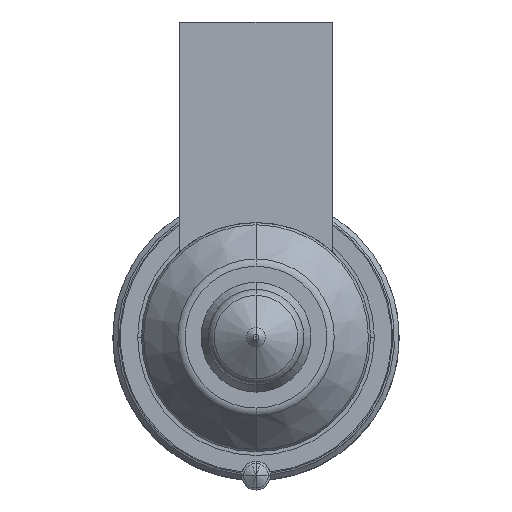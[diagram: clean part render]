
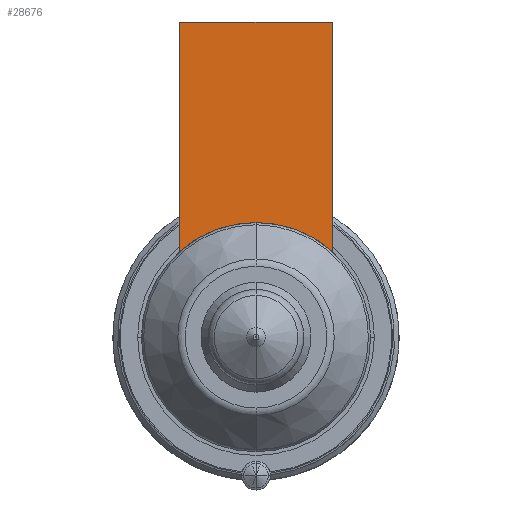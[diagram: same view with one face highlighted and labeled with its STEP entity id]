
A CAD part, front view. The second image highlights one B-rep face of the part: STEP entity #28676.
In plain terms, the highlighted planar face has unit normal (0, -1, 0).
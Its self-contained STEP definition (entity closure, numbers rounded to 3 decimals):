
#27836=DIRECTION('',(0.,0.,-1.));
#27837=VECTOR('',#27836,24.056);
#27838=CARTESIAN_POINT('',(-8.,-56.,33.));
#27839=LINE('',#27838,#27837);
#27876=DIRECTION('',(1.,0.,0.));
#27877=VECTOR('',#27876,16.);
#27878=CARTESIAN_POINT('',(-8.,-56.,33.));
#27879=LINE('',#27878,#27877);
#27883=CARTESIAN_POINT('',(0.,-56.,0.));
#27884=DIRECTION('',(0.,-1.,0.));
#27885=DIRECTION('',(0.667,0.,0.745));
#27886=AXIS2_PLACEMENT_3D('',#27883,#27884,#27885);
#27891=CARTESIAN_POINT('',(0.,-56.,0.));
#27892=DIRECTION('',(0.,-1.,0.));
#27893=DIRECTION('',(0.,0.,1.));
#27894=AXIS2_PLACEMENT_3D('',#27891,#27892,#27893);
#27927=DIRECTION('',(0.,0.,-1.));
#27928=VECTOR('',#27927,24.056);
#27929=CARTESIAN_POINT('',(8.,-56.,33.));
#27930=LINE('',#27929,#27928);
#28520=CARTESIAN_POINT('',(-8.,-56.,33.));
#28521=VERTEX_POINT('',#28520);
#28526=CARTESIAN_POINT('',(8.,-56.,33.));
#28527=VERTEX_POINT('',#28526);
#28530=CARTESIAN_POINT('',(-8.,-56.,8.944));
#28531=VERTEX_POINT('',#28530);
#28534=CARTESIAN_POINT('',(8.,-56.,8.944));
#28535=VERTEX_POINT('',#28534);
#28595=CARTESIAN_POINT('',(0.,-56.,12.));
#28596=VERTEX_POINT('',#28595);
#28661=CARTESIAN_POINT('',(-8.,-56.,33.));
#28662=DIRECTION('',(0.,-1.,0.));
#28663=DIRECTION('',(0.,0.,-1.));
#28664=AXIS2_PLACEMENT_3D('',#28661,#28662,#28663);
#28665=PLANE('',#28664);
#28666=ORIENTED_EDGE('',*,*,#28609,.F.);
#28668=ORIENTED_EDGE('',*,*,#28667,.T.);
#28670=ORIENTED_EDGE('',*,*,#28669,.T.);
#28672=ORIENTED_EDGE('',*,*,#28671,.T.);
#28673=ORIENTED_EDGE('',*,*,#28641,.T.);
#28674=EDGE_LOOP('',(#28666,#28668,#28670,#28672,#28673));
#28675=FACE_OUTER_BOUND('',#28674,.F.);
#28676=ADVANCED_FACE('',(#28675),#28665,.T.);
#27887=CIRCLE('',#27886,12.);
#27895=CIRCLE('',#27894,12.);
#28609=EDGE_CURVE('',#28521,#28531,#27839,.T.);
#28641=EDGE_CURVE('',#28596,#28531,#27895,.T.);
#28667=EDGE_CURVE('',#28521,#28527,#27879,.T.);
#28669=EDGE_CURVE('',#28527,#28535,#27930,.T.);
#28671=EDGE_CURVE('',#28535,#28596,#27887,.T.);
